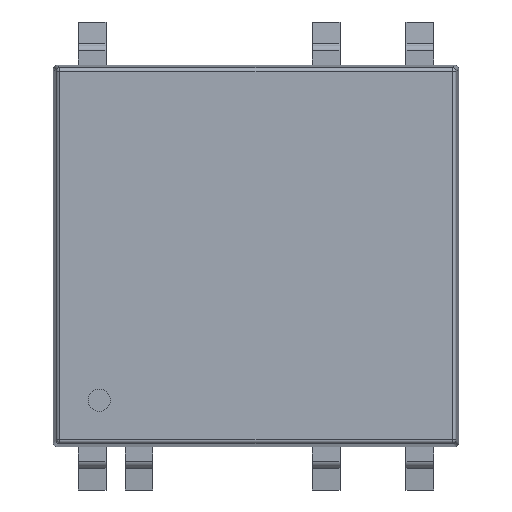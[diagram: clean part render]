
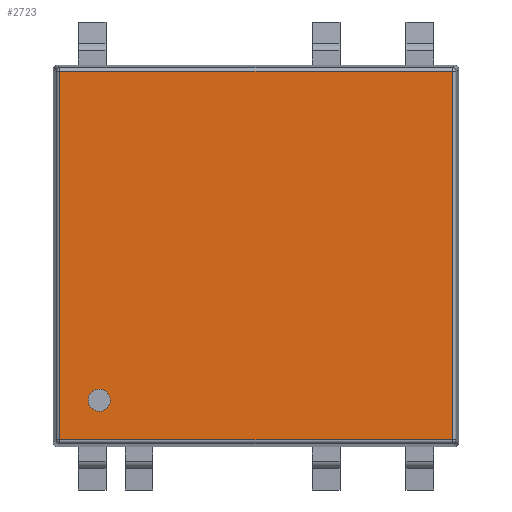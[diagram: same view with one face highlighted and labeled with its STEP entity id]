
A CAD part, top view. The second image highlights one B-rep face of the part: STEP entity #2723.
In plain terms, the highlighted planar face has unit normal (0, 0, 1).
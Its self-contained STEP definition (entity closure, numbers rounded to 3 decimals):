
#69=FACE_BOUND('',#480,.T.);
#155=PLANE('',#2991);
#308=FACE_OUTER_BOUND('',#479,.T.);
#479=EDGE_LOOP('',(#2483,#2484,#2485,#2486));
#480=EDGE_LOOP('',(#2487));
#739=LINE('',#4647,#1007);
#741=LINE('',#4650,#1009);
#745=LINE('',#4659,#1013);
#749=LINE('',#4668,#1017);
#1007=VECTOR('',#3745,21.298);
#1009=VECTOR('',#3749,19.998);
#1013=VECTOR('',#3759,19.998);
#1017=VECTOR('',#3769,21.298);
#1121=CIRCLE('',#2992,0.6);
#1353=VERTEX_POINT('',#4615);
#1356=VERTEX_POINT('',#4622);
#1358=VERTEX_POINT('',#4627);
#1360=VERTEX_POINT('',#4633);
#1371=VERTEX_POINT('',#4680);
#1732=EDGE_CURVE('',#1358,#1360,#739,.T.);
#1734=EDGE_CURVE('',#1360,#1356,#741,.T.);
#1739=EDGE_CURVE('',#1353,#1358,#745,.T.);
#1744=EDGE_CURVE('',#1356,#1353,#749,.T.);
#1750=EDGE_CURVE('',#1371,#1371,#1121,.T.);
#2483=ORIENTED_EDGE('',*,*,#1732,.F.);
#2484=ORIENTED_EDGE('',*,*,#1739,.F.);
#2485=ORIENTED_EDGE('',*,*,#1744,.F.);
#2486=ORIENTED_EDGE('',*,*,#1734,.F.);
#2487=ORIENTED_EDGE('',*,*,#1750,.T.);
#2723=ADVANCED_FACE('',(#308,#69),#155,.T.);
#2991=AXIS2_PLACEMENT_3D('',#4679,#3782,#3783);
#2992=AXIS2_PLACEMENT_3D('',#4681,#3784,#3785);
#3745=DIRECTION('',(1.,0.,0.));
#3749=DIRECTION('',(0.,-1.,0.));
#3759=DIRECTION('',(0.,1.,0.));
#3769=DIRECTION('',(-1.,0.,0.));
#3782=DIRECTION('center_axis',(0.,0.,1.));
#3783=DIRECTION('ref_axis',(1.,0.,0.));
#3784=DIRECTION('center_axis',(0.,0.,-1.));
#3785=DIRECTION('ref_axis',(-1.,0.,0.));
#4615=CARTESIAN_POINT('',(-10.649,-9.999,8.86));
#4622=CARTESIAN_POINT('',(10.649,-9.999,8.86));
#4627=CARTESIAN_POINT('',(-10.649,9.999,8.86));
#4633=CARTESIAN_POINT('',(10.649,9.999,8.86));
#4647=CARTESIAN_POINT('',(-5.5,9.999,8.86));
#4650=CARTESIAN_POINT('',(10.649,5.175,8.86));
#4659=CARTESIAN_POINT('',(-10.649,-5.175,8.86));
#4668=CARTESIAN_POINT('',(5.5,-9.999,8.86));
#4679=CARTESIAN_POINT('Origin',(0.,0.,8.86));
#4680=CARTESIAN_POINT('',(-7.9,-7.85,8.86));
#4681=CARTESIAN_POINT('Origin',(-8.5,-7.85,8.86));
